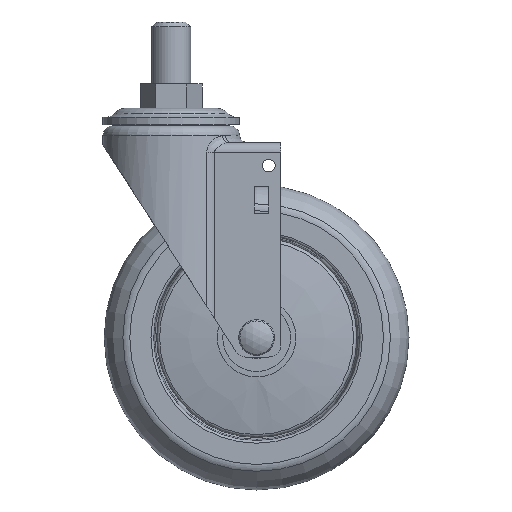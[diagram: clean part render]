
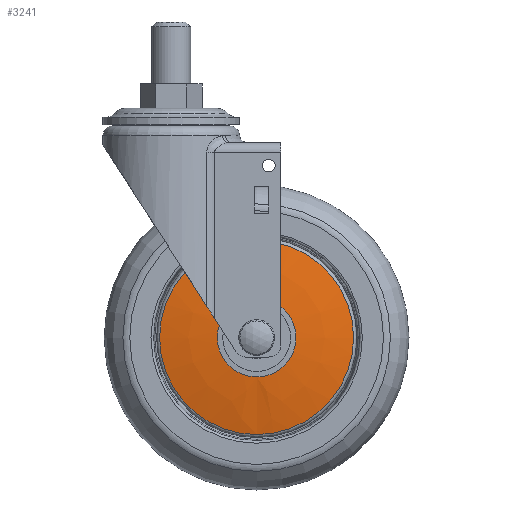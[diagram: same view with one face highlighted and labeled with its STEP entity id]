
A CAD part, front view. The second image highlights one B-rep face of the part: STEP entity #3241.
In plain terms, the highlighted free-form (B-spline) face has degree [2, 2] with [3, 9] control points.
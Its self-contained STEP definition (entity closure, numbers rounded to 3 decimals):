
#257=(
BOUNDED_CURVE()
B_SPLINE_CURVE(2,(#5332,#5333,#5334),.UNSPECIFIED.,.F.,.F.)
B_SPLINE_CURVE_WITH_KNOTS((3,3),(1.358,1.496),
 .UNSPECIFIED.)
CURVE()
GEOMETRIC_REPRESENTATION_ITEM()
RATIONAL_B_SPLINE_CURVE((1.,0.998,1.))
REPRESENTATION_ITEM('')
);
#297=(
BOUNDED_SURFACE()
B_SPLINE_SURFACE(2,2,((#5301,#5302,#5303,#5304,#5305,#5306,#5307,#5308,
#5309),(#5310,#5311,#5312,#5313,#5314,#5315,#5316,#5317,#5318),(#5319,#5320,
#5321,#5322,#5323,#5324,#5325,#5326,#5327)),.UNSPECIFIED.,.F.,.T.,.F.)
B_SPLINE_SURFACE_WITH_KNOTS((3,3),(3,2,2,2,3),(-1.496,-1.358),
(-3.142,-1.571,0.,1.571,3.142),
 .UNSPECIFIED.)
GEOMETRIC_REPRESENTATION_ITEM()
RATIONAL_B_SPLINE_SURFACE(((1.,0.707,1.,0.707,1.,
0.707,1.,0.707,1.),(0.998,0.705,
0.998,0.705,0.998,0.705,
0.998,0.705,0.998),(1.,0.707,
1.,0.707,1.,0.707,1.,0.707,1.)))
REPRESENTATION_ITEM('')
SURFACE()
);
#682=FACE_OUTER_BOUND('',#977,.T.);
#977=EDGE_LOOP('',(#2414,#2415,#2416,#2417,#2418,#2419));
#1367=CIRCLE('',#3549,16.136);
#1368=CIRCLE('',#3550,16.136);
#1369=CIRCLE('',#3551,39.788);
#1370=CIRCLE('',#3552,39.788);
#1605=VERTEX_POINT('',#5294);
#1606=VERTEX_POINT('',#5295);
#1607=VERTEX_POINT('',#5328);
#1608=VERTEX_POINT('',#5329);
#1935=EDGE_CURVE('',#1605,#1606,#1367,.T.);
#1936=EDGE_CURVE('',#1606,#1605,#1368,.T.);
#1938=EDGE_CURVE('',#1607,#1608,#1369,.T.);
#1939=EDGE_CURVE('',#1608,#1607,#1370,.T.);
#1940=EDGE_CURVE('',#1608,#1606,#257,.T.);
#2414=ORIENTED_EDGE('',*,*,#1938,.F.);
#2415=ORIENTED_EDGE('',*,*,#1939,.F.);
#2416=ORIENTED_EDGE('',*,*,#1940,.T.);
#2417=ORIENTED_EDGE('',*,*,#1936,.T.);
#2418=ORIENTED_EDGE('',*,*,#1935,.T.);
#2419=ORIENTED_EDGE('',*,*,#1940,.F.);
#3241=ADVANCED_FACE('',(#682),#297,.F.);
#3549=AXIS2_PLACEMENT_3D('',#5296,#4124,#4125);
#3550=AXIS2_PLACEMENT_3D('',#5297,#4126,#4127);
#3551=AXIS2_PLACEMENT_3D('',#5330,#4128,#4129);
#3552=AXIS2_PLACEMENT_3D('',#5331,#4130,#4131);
#4124=DIRECTION('center_axis',(0.,1.,0.));
#4125=DIRECTION('ref_axis',(1.,0.,0.));
#4126=DIRECTION('center_axis',(0.,1.,0.));
#4127=DIRECTION('ref_axis',(1.,0.,0.));
#4128=DIRECTION('center_axis',(0.,1.,0.));
#4129=DIRECTION('ref_axis',(1.,0.,0.));
#4130=DIRECTION('center_axis',(0.,1.,0.));
#4131=DIRECTION('ref_axis',(1.,0.,0.));
#5294=CARTESIAN_POINT('',(26.5,-18.667,-23.264));
#5295=CARTESIAN_POINT('',(26.5,-18.667,-55.536));
#5296=CARTESIAN_POINT('Origin',(26.5,-18.667,-39.4));
#5297=CARTESIAN_POINT('Origin',(26.5,-18.667,-39.4));
#5301=CARTESIAN_POINT('Ctrl Pts',(26.5,-18.667,-55.536));
#5302=CARTESIAN_POINT('Ctrl Pts',(10.364,-18.667,-55.536));
#5303=CARTESIAN_POINT('Ctrl Pts',(10.364,-18.667,-39.4));
#5304=CARTESIAN_POINT('Ctrl Pts',(10.364,-18.667,-23.264));
#5305=CARTESIAN_POINT('Ctrl Pts',(26.5,-18.667,-23.264));
#5306=CARTESIAN_POINT('Ctrl Pts',(42.636,-18.667,-23.264));
#5307=CARTESIAN_POINT('Ctrl Pts',(42.636,-18.667,-39.4));
#5308=CARTESIAN_POINT('Ctrl Pts',(42.636,-18.667,-55.536));
#5309=CARTESIAN_POINT('Ctrl Pts',(26.5,-18.667,-55.536));
#5310=CARTESIAN_POINT('Ctrl Pts',(26.5,-17.777,-67.48));
#5311=CARTESIAN_POINT('Ctrl Pts',(-1.58,-17.777,-67.48));
#5312=CARTESIAN_POINT('Ctrl Pts',(-1.58,-17.777,-39.4));
#5313=CARTESIAN_POINT('Ctrl Pts',(-1.58,-17.777,-11.32));
#5314=CARTESIAN_POINT('Ctrl Pts',(26.5,-17.777,-11.32));
#5315=CARTESIAN_POINT('Ctrl Pts',(54.58,-17.777,-11.32));
#5316=CARTESIAN_POINT('Ctrl Pts',(54.58,-17.777,-39.4));
#5317=CARTESIAN_POINT('Ctrl Pts',(54.58,-17.777,-67.48));
#5318=CARTESIAN_POINT('Ctrl Pts',(26.5,-17.777,-67.48));
#5319=CARTESIAN_POINT('Ctrl Pts',(26.5,-15.25,-79.188));
#5320=CARTESIAN_POINT('Ctrl Pts',(-13.288,-15.25,-79.188));
#5321=CARTESIAN_POINT('Ctrl Pts',(-13.288,-15.25,-39.4));
#5322=CARTESIAN_POINT('Ctrl Pts',(-13.288,-15.25,0.388));
#5323=CARTESIAN_POINT('Ctrl Pts',(26.5,-15.25,0.388));
#5324=CARTESIAN_POINT('Ctrl Pts',(66.288,-15.25,0.388));
#5325=CARTESIAN_POINT('Ctrl Pts',(66.288,-15.25,-39.4));
#5326=CARTESIAN_POINT('Ctrl Pts',(66.288,-15.25,-79.188));
#5327=CARTESIAN_POINT('Ctrl Pts',(26.5,-15.25,-79.188));
#5328=CARTESIAN_POINT('',(26.5,-15.25,0.388));
#5329=CARTESIAN_POINT('',(26.5,-15.25,-79.188));
#5330=CARTESIAN_POINT('Origin',(26.5,-15.25,-39.4));
#5331=CARTESIAN_POINT('Origin',(26.5,-15.25,-39.4));
#5332=CARTESIAN_POINT('Ctrl Pts',(26.5,-15.25,-79.188));
#5333=CARTESIAN_POINT('Ctrl Pts',(26.5,-17.777,-67.48));
#5334=CARTESIAN_POINT('Ctrl Pts',(26.5,-18.667,-55.536));
